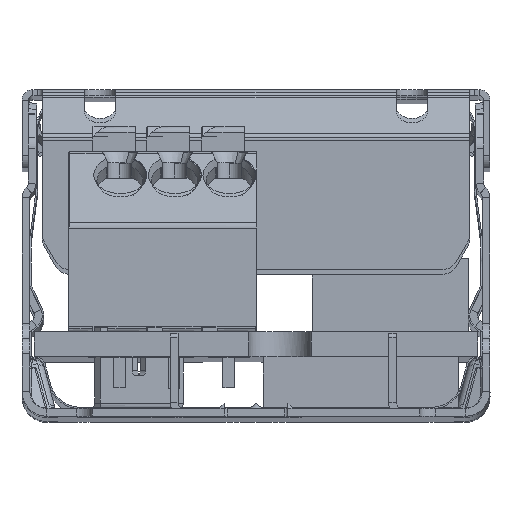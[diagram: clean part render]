
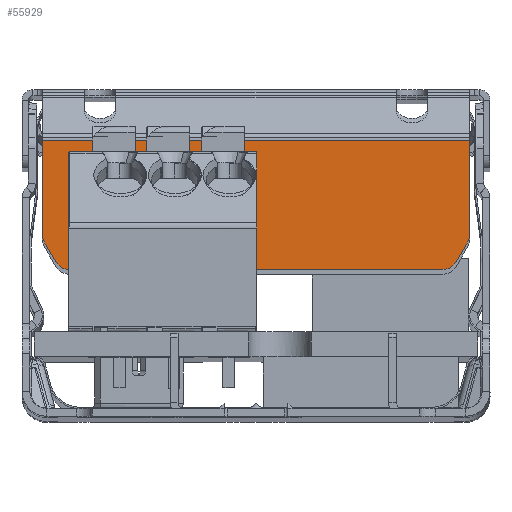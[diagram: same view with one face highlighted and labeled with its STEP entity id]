
A CAD part, top view. The second image highlights one B-rep face of the part: STEP entity #55929.
In plain terms, the highlighted planar face has unit normal (0, 0, 1).
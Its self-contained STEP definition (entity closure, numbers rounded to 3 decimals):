
#51404=DIRECTION('',(-1.,0.,0.));
#51405=VECTOR('',#51404,27.4);
#51406=CARTESIAN_POINT('',(7.016,-11.213,
17.041));
#51407=LINE('',#51406,#51405);
#51412=CARTESIAN_POINT('',(-19.384,-17.203,
17.041));
#51413=DIRECTION('',(0.,0.,-1.));
#51414=DIRECTION('',(-0.866,-0.5,0.));
#51415=AXIS2_PLACEMENT_3D('',#51412,#51413,#51414);
#51417=DIRECTION('',(0.,1.,0.));
#51418=VECTOR('',#51417,5.989);
#51419=CARTESIAN_POINT('',(-20.384,-17.203,
17.041));
#51420=LINE('',#51419,#51418);
#51421=DIRECTION('',(0.,-1.,0.));
#51422=VECTOR('',#51421,5.989);
#51423=CARTESIAN_POINT('',(7.016,-11.213,
17.041));
#51424=LINE('',#51423,#51422);
#51425=CARTESIAN_POINT('',(6.016,-17.203,
17.041));
#51426=DIRECTION('',(0.,0.,-1.));
#51427=DIRECTION('',(1.,0.,0.));
#51428=AXIS2_PLACEMENT_3D('',#51425,#51426,#51427);
#51430=DIRECTION('',(-0.5,-0.866,0.));
#51431=VECTOR('',#51430,1.464);
#51432=CARTESIAN_POINT('',(6.882,-17.703,
17.041));
#51433=LINE('',#51432,#51431);
#51434=CARTESIAN_POINT('',(5.284,-18.471,
17.041));
#51435=DIRECTION('',(0.,0.,-1.));
#51436=DIRECTION('',(0.866,-0.5,0.));
#51437=AXIS2_PLACEMENT_3D('',#51434,#51435,#51436);
#51439=DIRECTION('',(-1.,0.,0.));
#51440=VECTOR('',#51439,23.936);
#51441=CARTESIAN_POINT('',(5.284,-19.471,
17.041));
#51442=LINE('',#51441,#51440);
#51443=CARTESIAN_POINT('',(-18.652,-18.471,
17.041));
#51444=DIRECTION('',(0.,0.,-1.));
#51445=DIRECTION('',(0.,-1.,0.));
#51446=AXIS2_PLACEMENT_3D('',#51443,#51444,#51445);
#51448=DIRECTION('',(-0.5,0.866,0.));
#51449=VECTOR('',#51448,1.464);
#51450=CARTESIAN_POINT('',(-19.518,-18.971,
17.041));
#51451=LINE('',#51450,#51449);
#52808=CARTESIAN_POINT('',(-20.384,-11.213,
17.041));
#52809=VERTEX_POINT('',#52808);
#52812=CARTESIAN_POINT('',(7.016,-11.213,
17.041));
#52813=VERTEX_POINT('',#52812);
#52814=CARTESIAN_POINT('',(-20.25,-17.703,
17.041));
#52815=CARTESIAN_POINT('',(-20.384,-17.203,
17.041));
#52816=VERTEX_POINT('',#52814);
#52817=VERTEX_POINT('',#52815);
#52818=CARTESIAN_POINT('',(7.016,-17.203,
17.041));
#52819=VERTEX_POINT('',#52818);
#52820=CARTESIAN_POINT('',(6.882,-17.703,
17.041));
#52821=VERTEX_POINT('',#52820);
#52822=CARTESIAN_POINT('',(6.15,-18.971,
17.041));
#52823=VERTEX_POINT('',#52822);
#52824=CARTESIAN_POINT('',(5.284,-19.471,
17.041));
#52825=VERTEX_POINT('',#52824);
#52826=CARTESIAN_POINT('',(-18.652,-19.471,
17.041));
#52827=VERTEX_POINT('',#52826);
#52828=CARTESIAN_POINT('',(-19.518,-18.971,
17.041));
#52829=VERTEX_POINT('',#52828);
#55903=CARTESIAN_POINT('',(0.506,-10.923,
17.041));
#55904=DIRECTION('',(0.,0.,1.));
#55905=DIRECTION('',(-1.,0.,0.));
#55906=AXIS2_PLACEMENT_3D('',#55903,#55904,#55905);
#55907=PLANE('',#55906);
#55909=ORIENTED_EDGE('',*,*,#55908,.T.);
#55911=ORIENTED_EDGE('',*,*,#55910,.T.);
#55912=ORIENTED_EDGE('',*,*,#55894,.F.);
#55914=ORIENTED_EDGE('',*,*,#55913,.T.);
#55916=ORIENTED_EDGE('',*,*,#55915,.T.);
#55918=ORIENTED_EDGE('',*,*,#55917,.T.);
#55920=ORIENTED_EDGE('',*,*,#55919,.T.);
#55922=ORIENTED_EDGE('',*,*,#55921,.T.);
#55924=ORIENTED_EDGE('',*,*,#55923,.T.);
#55926=ORIENTED_EDGE('',*,*,#55925,.T.);
#55927=EDGE_LOOP('',(#55909,#55911,#55912,#55914,#55916,#55918,#55920,#55922,
#55924,#55926));
#55928=FACE_OUTER_BOUND('',#55927,.F.);
#55929=ADVANCED_FACE('',(#55928),#55907,.T.);
#51416=CIRCLE('',#51415,1.);
#51429=CIRCLE('',#51428,1.);
#51438=CIRCLE('',#51437,1.);
#51447=CIRCLE('',#51446,1.);
#55894=EDGE_CURVE('',#52813,#52809,#51407,.T.);
#55908=EDGE_CURVE('',#52816,#52817,#51416,.T.);
#55910=EDGE_CURVE('',#52817,#52809,#51420,.T.);
#55913=EDGE_CURVE('',#52813,#52819,#51424,.T.);
#55915=EDGE_CURVE('',#52819,#52821,#51429,.T.);
#55917=EDGE_CURVE('',#52821,#52823,#51433,.T.);
#55919=EDGE_CURVE('',#52823,#52825,#51438,.T.);
#55921=EDGE_CURVE('',#52825,#52827,#51442,.T.);
#55923=EDGE_CURVE('',#52827,#52829,#51447,.T.);
#55925=EDGE_CURVE('',#52829,#52816,#51451,.T.);
